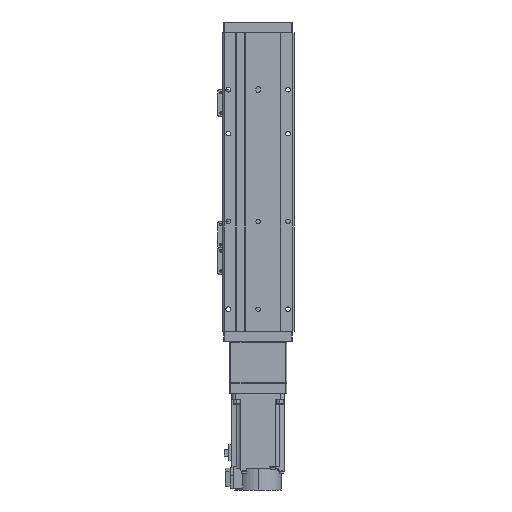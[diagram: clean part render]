
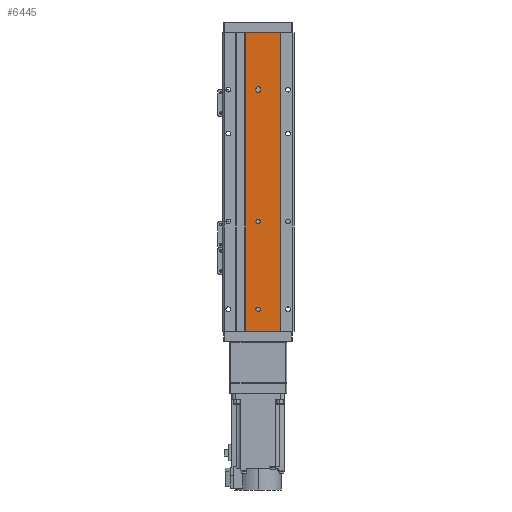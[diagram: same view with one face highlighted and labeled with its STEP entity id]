
A CAD part, front view. The second image highlights one B-rep face of the part: STEP entity #6445.
In plain terms, the highlighted planar face has unit normal (0, -1, 0).
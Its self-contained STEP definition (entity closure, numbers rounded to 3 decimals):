
#288 = EDGE_LOOP ( 'NONE', ( #24868, #34022, #6565, #2627 ) ) ;
#356 = CIRCLE ( 'NONE', #5327, 2.5 ) ;
#494 = VERTEX_POINT ( 'NONE', #5511 ) ;
#718 = DIRECTION ( 'NONE',  ( 0., 0., -1. ) ) ;
#833 = FACE_BOUND ( 'NONE', #5008, .T. ) ;
#849 = VERTEX_POINT ( 'NONE', #13776 ) ;
#1373 = LINE ( 'NONE', #13195, #5886 ) ;
#2352 = VECTOR ( 'NONE', #20925, 1000. ) ;
#2627 = ORIENTED_EDGE ( 'NONE', *, *, #15876, .T. ) ;
#2802 = EDGE_CURVE ( 'NONE', #32539, #31985, #37574, .T. ) ;
#2964 = VERTEX_POINT ( 'NONE', #13186 ) ;
#3357 = CIRCLE ( 'NONE', #25001, 2.5 ) ;
#3503 = VERTEX_POINT ( 'NONE', #14268 ) ;
#3513 = DIRECTION ( 'NONE',  ( 0., -1., 0. ) ) ;
#4114 = ORIENTED_EDGE ( 'NONE', *, *, #31327, .F. ) ;
#4271 = AXIS2_PLACEMENT_3D ( 'NONE', #30054, #3513, #15342 ) ;
#4315 = ORIENTED_EDGE ( 'NONE', *, *, #7640, .F. ) ;
#4398 = CARTESIAN_POINT ( 'NONE',  ( 0., 1., 142.5 ) ) ;
#4852 = CARTESIAN_POINT ( 'NONE',  ( 14., 1., 170. ) ) ;
#5008 = EDGE_LOOP ( 'NONE', ( #21443, #4315 ) ) ;
#5056 = CARTESIAN_POINT ( 'NONE',  ( -25., 1., -170. ) ) ;
#5316 = CARTESIAN_POINT ( 'NONE',  ( 0., 1., 145. ) ) ;
#5327 = AXIS2_PLACEMENT_3D ( 'NONE', #5316, #17145, #28961 ) ;
#5511 = CARTESIAN_POINT ( 'NONE',  ( 0., 1., -108.5 ) ) ;
#5535 = EDGE_CURVE ( 'NONE', #494, #3503, #14985, .T. ) ;
#5621 = EDGE_LOOP ( 'NONE', ( #23415, #37546 ) ) ;
#5886 = VECTOR ( 'NONE', #25016, 1000. ) ;
#6367 = AXIS2_PLACEMENT_3D ( 'NONE', #9773, #21584, #33404 ) ;
#6445 = ADVANCED_FACE ( 'NONE', ( #27383, #833, #12661, #24485 ), #36306, .F. ) ;
#6553 = CARTESIAN_POINT ( 'NONE',  ( 0., 1., -106. ) ) ;
#6565 = ORIENTED_EDGE ( 'NONE', *, *, #37480, .F. ) ;
#6577 = CARTESIAN_POINT ( 'NONE',  ( 0., 1., -106. ) ) ;
#6931 = CARTESIAN_POINT ( 'NONE',  ( 14., 1., -170. ) ) ;
#6952 = CARTESIAN_POINT ( 'NONE',  ( 0., 1., 45. ) ) ;
#7109 = VECTOR ( 'NONE', #16877, 1000. ) ;
#7438 = CARTESIAN_POINT ( 'NONE',  ( 0., 1., 147.5 ) ) ;
#7640 = EDGE_CURVE ( 'NONE', #22556, #9831, #3357, .T. ) ;
#7721 = CIRCLE ( 'NONE', #29407, 2.5 ) ;
#7750 = CIRCLE ( 'NONE', #29431, 2.5 ) ;
#8171 = LINE ( 'NONE', #19982, #34215 ) ;
#8284 = EDGE_CURVE ( 'NONE', #849, #27601, #1373, .T. ) ;
#8366 = CARTESIAN_POINT ( 'NONE',  ( 0., 1., 42.5 ) ) ;
#8415 = EDGE_CURVE ( 'NONE', #38203, #29017, #31605, .T. ) ;
#8689 = EDGE_CURVE ( 'NONE', #31985, #32539, #7750, .T. ) ;
#9029 = DIRECTION ( 'NONE',  ( 0., -1., 0. ) ) ;
#9113 = CARTESIAN_POINT ( 'NONE',  ( -25., 1., 170. ) ) ;
#9344 = DIRECTION ( 'NONE',  ( 0., -1., 0. ) ) ;
#9773 = CARTESIAN_POINT ( 'NONE',  ( -25., 1., 170. ) ) ;
#9831 = VERTEX_POINT ( 'NONE', #4398 ) ;
#9862 = VERTEX_POINT ( 'NONE', #16419 ) ;
#10294 = LINE ( 'NONE', #22108, #11538 ) ;
#10738 = CARTESIAN_POINT ( 'NONE',  ( 0., 1., 47.5 ) ) ;
#11538 = VECTOR ( 'NONE', #33931, 1000. ) ;
#12661 = FACE_BOUND ( 'NONE', #5621, .T. ) ;
#13186 = CARTESIAN_POINT ( 'NONE',  ( 2.5, 1., -104. ) ) ;
#13195 = CARTESIAN_POINT ( 'NONE',  ( -2.5, 1., -104. ) ) ;
#13776 = CARTESIAN_POINT ( 'NONE',  ( -2.5, 1., -104. ) ) ;
#14268 = CARTESIAN_POINT ( 'NONE',  ( 2.5, 1., -106. ) ) ;
#14312 = ORIENTED_EDGE ( 'NONE', *, *, #21021, .F. ) ;
#14985 = CIRCLE ( 'NONE', #36614, 2.5 ) ;
#15270 = ORIENTED_EDGE ( 'NONE', *, *, #16931, .F. ) ;
#15342 = DIRECTION ( 'NONE',  ( 0., 0., -1. ) ) ;
#15657 = CARTESIAN_POINT ( 'NONE',  ( -25., 1., -170. ) ) ;
#15876 = EDGE_CURVE ( 'NONE', #22953, #38203, #35648, .T. ) ;
#15934 = CARTESIAN_POINT ( 'NONE',  ( -25., 1., 170. ) ) ;
#16419 = CARTESIAN_POINT ( 'NONE',  ( 14., 1., 170. ) ) ;
#16677 = DIRECTION ( 'NONE',  ( 0., 0., -1. ) ) ;
#16877 = DIRECTION ( 'NONE',  ( 1., 0., 0. ) ) ;
#16931 = EDGE_CURVE ( 'NONE', #3503, #2964, #10294, .T. ) ;
#17005 = ORIENTED_EDGE ( 'NONE', *, *, #8284, .F. ) ;
#17145 = DIRECTION ( 'NONE',  ( 0., -1., 0. ) ) ;
#18397 = DIRECTION ( 'NONE',  ( 0., -1., 0. ) ) ;
#18769 = DIRECTION ( 'NONE',  ( 0., -1., 0. ) ) ;
#19982 = CARTESIAN_POINT ( 'NONE',  ( -25., 1., 170. ) ) ;
#20844 = DIRECTION ( 'NONE',  ( 0., 0., -1. ) ) ;
#20873 = AXIS2_PLACEMENT_3D ( 'NONE', #35886, #9344, #21145 ) ;
#20925 = DIRECTION ( 'NONE',  ( 0., 0., -1. ) ) ;
#20976 = CIRCLE ( 'NONE', #4271, 2.5 ) ;
#21021 = EDGE_CURVE ( 'NONE', #2964, #849, #20976, .T. ) ;
#21145 = DIRECTION ( 'NONE',  ( 0., 0., -1. ) ) ;
#21183 = EDGE_CURVE ( 'NONE', #9862, #29017, #31391, .T. ) ;
#21443 = ORIENTED_EDGE ( 'NONE', *, *, #25323, .F. ) ;
#21584 = DIRECTION ( 'NONE',  ( 0., 1., 0. ) ) ;
#22108 = CARTESIAN_POINT ( 'NONE',  ( 2.5, 1., -104. ) ) ;
#22556 = VERTEX_POINT ( 'NONE', #7438 ) ;
#22953 = VERTEX_POINT ( 'NONE', #15934 ) ;
#23415 = ORIENTED_EDGE ( 'NONE', *, *, #2802, .F. ) ;
#24485 = FACE_OUTER_BOUND ( 'NONE', #288, .T. ) ;
#24868 = ORIENTED_EDGE ( 'NONE', *, *, #8415, .T. ) ;
#25001 = AXIS2_PLACEMENT_3D ( 'NONE', #35562, #9029, #20844 ) ;
#25016 = DIRECTION ( 'NONE',  ( 0., 0., -1. ) ) ;
#25323 = EDGE_CURVE ( 'NONE', #9831, #22556, #356, .T. ) ;
#27280 = DIRECTION ( 'NONE',  ( 0., -1., 0. ) ) ;
#27383 = FACE_BOUND ( 'NONE', #32986, .T. ) ;
#27601 = VERTEX_POINT ( 'NONE', #27624 ) ;
#27624 = CARTESIAN_POINT ( 'NONE',  ( -2.5, 1., -106. ) ) ;
#28961 = DIRECTION ( 'NONE',  ( 0., 0., -1. ) ) ;
#29017 = VERTEX_POINT ( 'NONE', #6931 ) ;
#29407 = AXIS2_PLACEMENT_3D ( 'NONE', #6553, #27280, #718 ) ;
#29431 = AXIS2_PLACEMENT_3D ( 'NONE', #6952, #18769, #30595 ) ;
#30054 = CARTESIAN_POINT ( 'NONE',  ( 0., 1., -104. ) ) ;
#30230 = DIRECTION ( 'NONE',  ( 0., 0., -1. ) ) ;
#30595 = DIRECTION ( 'NONE',  ( 0., 0., -1. ) ) ;
#31327 = EDGE_CURVE ( 'NONE', #27601, #494, #7721, .T. ) ;
#31391 = LINE ( 'NONE', #4852, #35227 ) ;
#31605 = LINE ( 'NONE', #5056, #7109 ) ;
#31812 = DIRECTION ( 'NONE',  ( 1., 0., 0. ) ) ;
#31985 = VERTEX_POINT ( 'NONE', #10738 ) ;
#32539 = VERTEX_POINT ( 'NONE', #8366 ) ;
#32986 = EDGE_LOOP ( 'NONE', ( #17005, #14312, #15270, #35482, #4114 ) ) ;
#33404 = DIRECTION ( 'NONE',  ( 0., 0., 1. ) ) ;
#33931 = DIRECTION ( 'NONE',  ( 0., 0., 1. ) ) ;
#34022 = ORIENTED_EDGE ( 'NONE', *, *, #21183, .F. ) ;
#34215 = VECTOR ( 'NONE', #31812, 1000. ) ;
#35227 = VECTOR ( 'NONE', #16677, 1000. ) ;
#35482 = ORIENTED_EDGE ( 'NONE', *, *, #5535, .F. ) ;
#35562 = CARTESIAN_POINT ( 'NONE',  ( 0., 1., 145. ) ) ;
#35648 = LINE ( 'NONE', #9113, #2352 ) ;
#35886 = CARTESIAN_POINT ( 'NONE',  ( 0., 1., 45. ) ) ;
#36306 = PLANE ( 'NONE',  #6367 ) ;
#36614 = AXIS2_PLACEMENT_3D ( 'NONE', #6577, #18397, #30230 ) ;
#37480 = EDGE_CURVE ( 'NONE', #22953, #9862, #8171, .T. ) ;
#37546 = ORIENTED_EDGE ( 'NONE', *, *, #8689, .F. ) ;
#37574 = CIRCLE ( 'NONE', #20873, 2.5 ) ;
#38203 = VERTEX_POINT ( 'NONE', #15657 ) ;
